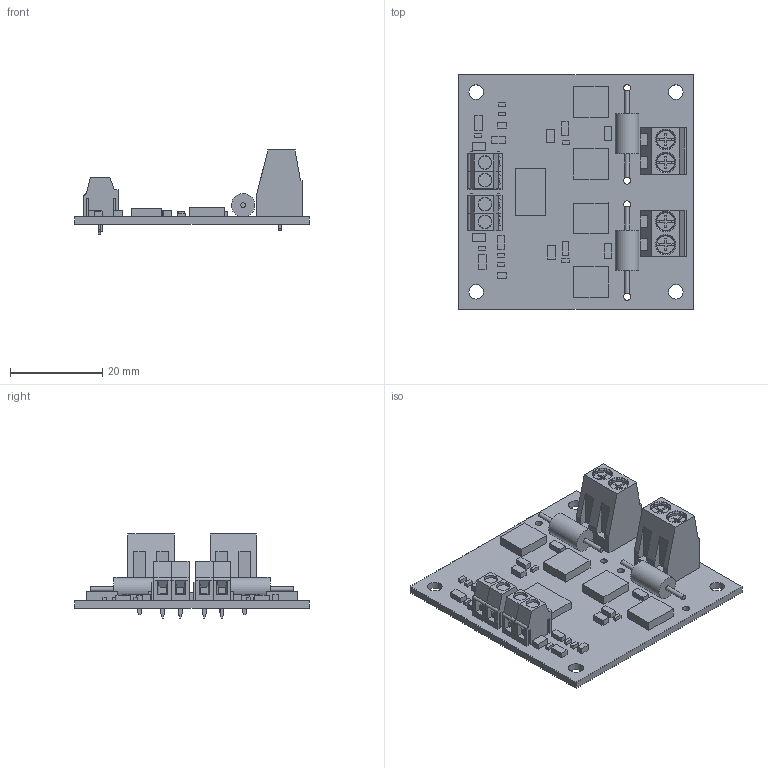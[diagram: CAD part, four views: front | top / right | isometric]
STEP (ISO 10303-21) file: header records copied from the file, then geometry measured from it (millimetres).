
FILE_DESCRIPTION(('Open CASCADE Model'),'2;1');
FILE_NAME('Open CASCADE Shape Model','2010-12-07T10:03:54',('Author'),( 'Open CASCADE'),'Open CASCADE STEP processor 6.2','Open CASCADE 6.2' ,'Unknown');
FILE_SCHEMA(('AUTOMOTIVE_DESIGN { 1 0 10303 214 1 1 1 1 }'));
Length unit declared in the file: millimetre
Products named in the file (69): PCB; Board; D8; 494649024; Extruded; D7; D3; 620932160; Cylinder; 620924768; 620924880; U4; 641600624; D1; 606050448; D2; 494667328; D4; J1; 395433002; Open CASCADE STEP translator 6.2 57.9.1.1; Open CASCADE STEP translator 6.2 57.9.1.2; J2; 20020327-d02_asm; 20020327-D-LEM; 20020327-D-REM; 620931936; J3; J4; R1; 494649536; R2; R3; R5; U1; 641601136; U2; 641580144; U3; U5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
Assembly tree (92 placements, depth 4):
  PCB
    Board
    D8
      494649024
        Extruded
    D7
      494649024
        Extruded
    D3
      620932160
        Cylinder
      620924768
        Cylinder
      620924880
        Cylinder
    U4
      641600624
        Extruded
    D1
      606050448
        Extruded
    D2
      494667328
        Extruded
    D4
      606050448
        Extruded
    J1
      395433002
        Open CASCADE STEP translator 6.2 57.9.1.1
        Open CASCADE STEP translator 6.2 57.9.1.2
    J2
      20020327-d02_asm
        20020327-D-LEM
        20020327-D-REM  x2
      620931936
        Cylinder
    J3
      20020327-d02_asm
        20020327-D-LEM
        20020327-D-REM  x2
      620931936
        Cylinder
    J4
      395433002
        Open CASCADE STEP translator 6.2 57.9.1.1
        Open CASCADE STEP translator 6.2 57.9.1.2
    R1
      494649536
        Extruded
    R2
      494649536
        Extruded
    R3
      494649536
        Extruded
    R5
      494649536
        Extruded
    U1
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Bounding box: 50.8 x 50.8 x 18.18 mm (x, y, z)
Volume: 7989.6 mm3; surface area: 10490.2 mm2
Topology: 50 solids, 50 shells, 970 faces, 2394 edges, 1564 vertices
Faces by surface type: plane 782, cylinder 132, torus 40, cone 16
Full cylindrical faces by diameter (mm): 0.6 x2, 1.016 x4, 1.321 x4, 1.524 x4, 1.6 x4, 3.175 x4, 5.08 x2
Entity records: 25137 total; most frequent: CARTESIAN_POINT 6292, DIRECTION 3290, LINE 1981, VECTOR 1981, ORIENTED_EDGE 1746, PCURVE 1746, DEFINITIONAL_REPRESENTATION 1746, EDGE_CURVE 873
